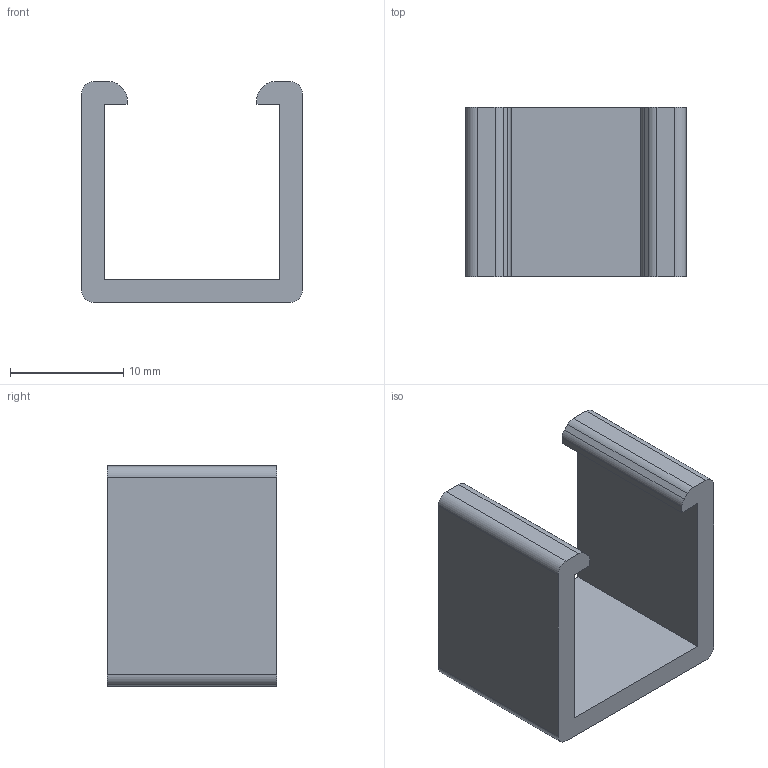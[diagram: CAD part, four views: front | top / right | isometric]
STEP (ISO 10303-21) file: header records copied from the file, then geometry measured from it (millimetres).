
FILE_DESCRIPTION(('STEP AP203'), '1');
FILE_NAME('Êëèïñà íà Êëèïñó äëÿ ïàêåòà', '', ('UNSPECIFIED'), ('UNSPECIFIED'), 'C3D Converter', 'C3D Toolkit', '');
FILE_SCHEMA(('CONFIG_CONTROL_DESIGN'));
Length unit declared in the file: millimetre
Bounding box: 19.5 x 15 x 19.5 mm (x, y, z)
Volume: 1725.8 mm3; surface area: 1999.2 mm2
Topology: 1 solids, 1 shells, 24 faces, 66 edges, 44 vertices
Faces by surface type: plane 16, cylinder 8
Entity records: 806 total; most frequent: CARTESIAN_POINT 135, DIRECTION 132, ORIENTED_EDGE 132, EDGE_CURVE 66, LINE 50, VECTOR 50, VERTEX_POINT 44, AXIS2_PLACEMENT_3D 41
